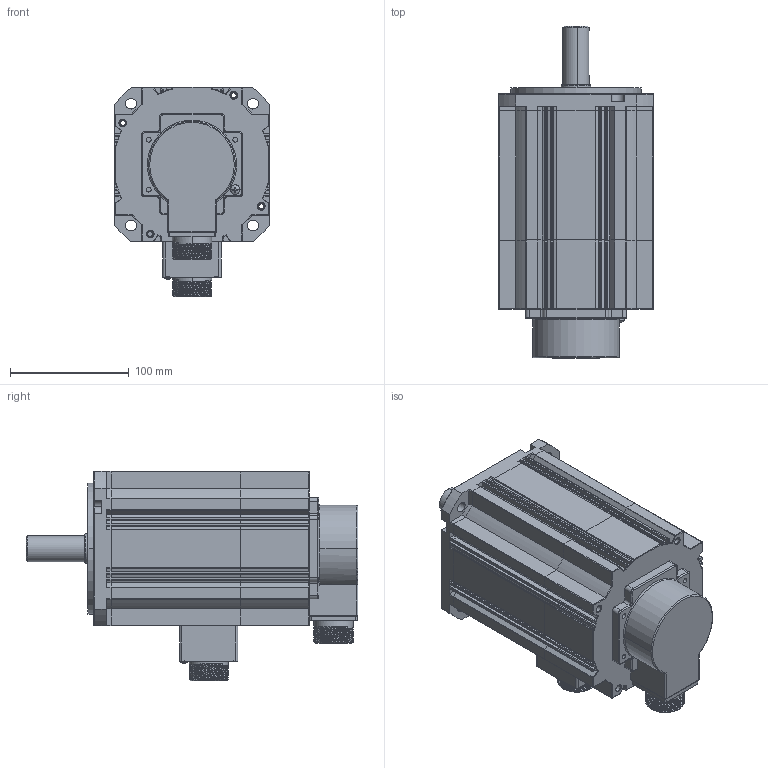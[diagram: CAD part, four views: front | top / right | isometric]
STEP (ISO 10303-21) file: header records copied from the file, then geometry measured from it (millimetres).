
FILE_DESCRIPTION (( 'STEP AP203' ), '1' );
FILE_NAME ('WF130BST-Z1M11515.STEP', '2022-09-06T10:19:37', ( '' ), ( '' ), 'SwSTEP 2.0', 'SolidWorks 2018', '' );
FILE_SCHEMA (( 'CONFIG_CONTROL_DESIGN' ));
Length unit declared in the file: millimetre
Products named in the file (18): ________-2.STEP; jike.STEP; WF130ST-Z1M095520.STEP; ________.STEP; cross recessed pan head screws gb_GB_CROSS_SCREWS_TYPE1 M3X12-12  H type-N.STEP; __.STEP; ______-1.STEP; hexagon socket head cap screws gb_GB_FASTENER_SCREWS_HSHCS M5X20-N.STEP; deep groove ball bearings gb_Rolling bearings 6205 GB 276-94.STEP; ________-1.STEP; cross recessed pan head screws gb_GB_CROSS_SCREWS_TYPE1 M4X12-12  H type-N.STEP; __________.STEP; ______-0.STEP; ______-3.STEP; deep groove ball bearings gb_Rolling bearings 6204 GB 276-94.STEP; WF130BST-Z1M11515; ______.STEP; ____1.STEP
Assembly tree (21 placements, depth 4):
  WF130BST-Z1M11515
    WF130ST-Z1M095520.STEP
      ________.STEP
        ______.STEP
        ____1.STEP
        ______-0.STEP
      ________-1.STEP
        __.STEP
        deep groove ball bearings gb_Rolling bearings 6205 GB 276-94.STEP  x2
        deep groove ball bearings gb_Rolling bearings 6204 GB 276-94.STEP  x2
      jike.STEP
      ______-1.STEP
      ________-2.STEP
      ____1.STEP
      hexagon socket head cap screws gb_GB_FASTENER_SCREWS_HSHCS M5X20-N.STEP
      cross recessed pan head screws gb_GB_CROSS_SCREWS_TYPE1 M4X12-12  H type-N.STEP
      cross recessed pan head screws gb_GB_CROSS_SCREWS_TYPE1 M3X12-12  H type-N.STEP  x2
      ______-3.STEP
      __________.STEP
Bounding box: 130 x 279 x 176 mm (x, y, z)
Volume: 1199670 mm3; surface area: 432559.5 mm2
Topology: 18 solids, 18 shells, 2307 faces, 6722 edges, 4073 vertices
Faces by surface type: cylinder 899, plane 561, torus 369, sphere 344, bspline 114, cone 20
Entity records: 73884 total; most frequent: CARTESIAN_POINT 24495, ORIENTED_EDGE 10160, DIRECTION 9973, EDGE_CURVE 5080, AXIS2_PLACEMENT_3D 3998, VERTEX_POINT 3176, CIRCLE 2142, EDGE_LOOP 2098
